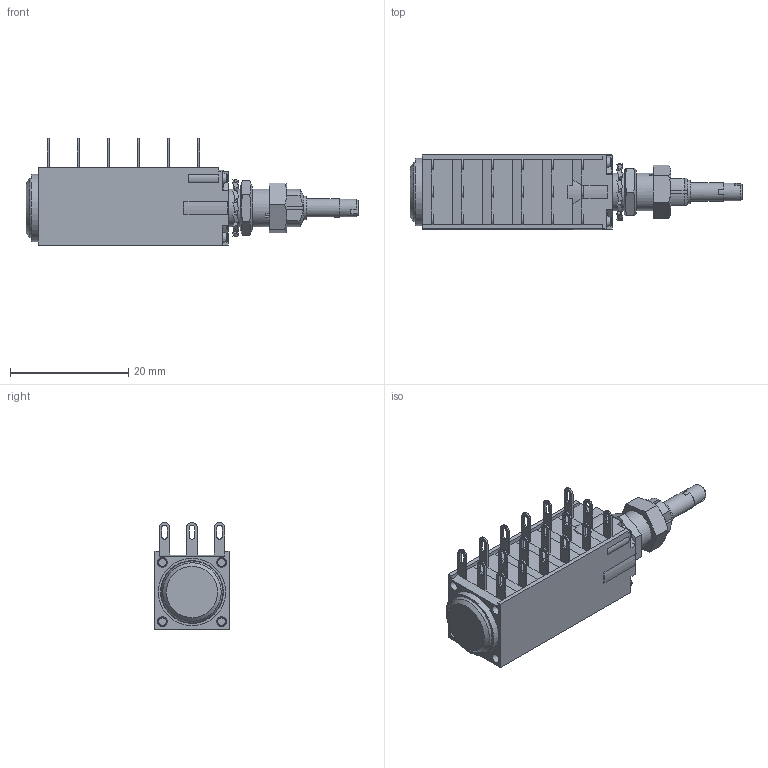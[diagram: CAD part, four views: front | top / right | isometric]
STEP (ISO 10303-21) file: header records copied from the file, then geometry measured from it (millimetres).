
FILE_DESCRIPTION(/* description */ ('Unknown'),/* implementation_level */ '2;1');
FILE_NAME(/* name */ 'P11S6E0BHSY00101MA',/* time_stamp */ '2025-09-19T12:46:20+02:00',/* author */ ('BMERLE'),/* organization */ ('VISHAYSA'),/* preprocessor_version */ 'ST-DEVELOPER v19.4',/* originating_system */ 'Solid Edge',/* authorisation */ 'Unknown');
FILE_SCHEMA (('AUTOMOTIVE_DESIGN {1 0 10303 214 3 1 1}'));
Length unit declared in the file: millimetre
Products named in the file (1): P11S6E0BHSY00101MA
Bounding box: 56.07 x 12.8 x 18.09 mm (x, y, z)
Volume: 3100.1 mm3; surface area: 5610.8 mm2
Topology: 2 solids, 48 shells, 1128 faces, 3022 edges, 1997 vertices
Faces by surface type: plane 637, cylinder 300, cone 103, bspline 56, torus 32
Full cylindrical faces by diameter (mm): 1.3 x24, 1.5 x16, 2.55 x3, 2.6 x3, 2.8 x1, 3 x1, 3.17 x1, 4 x1, 4.1 x2, 5.25 x1, 6.35 x2, 6.65 x1, 7.42 x1, 7.44 x1, 8.4 x1, 9.65 x1, 10.4 x6, 10.6 x5, 11.35 x5
Entity records: 42065 total; most frequent: CARTESIAN_POINT 8119, ORIENTED_EDGE 5522, DIRECTION 5365, EDGE_CURVE 2761, AXIS2_PLACEMENT_3D 1975, VERTEX_POINT 1882, LINE 1415, VECTOR 1415
